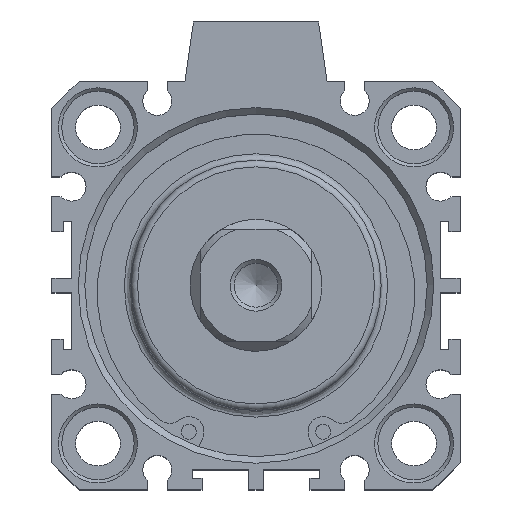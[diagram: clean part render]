
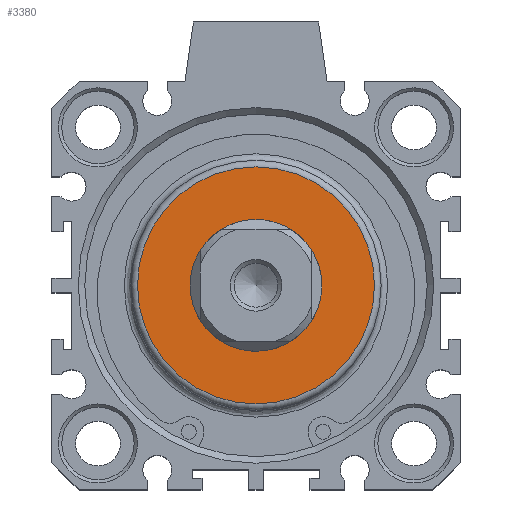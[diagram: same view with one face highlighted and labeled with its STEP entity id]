
A CAD part, top view. The second image highlights one B-rep face of the part: STEP entity #3380.
In plain terms, the highlighted planar face has unit normal (0, 0, 1).
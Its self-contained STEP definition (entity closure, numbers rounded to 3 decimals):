
#2900=CARTESIAN_POINT('',(-7.057,11.794,42.5));
#2901=VERTEX_POINT('',#2900);
#2902=CARTESIAN_POINT('',(-7.057,1.794,42.5));
#2903=DIRECTION('',(0.0,0.0,-1.0));
#2904=DIRECTION('',(0.0,1.0,0.0));
#2905=AXIS2_PLACEMENT_3D('',#2902,#2903,#2904);
#2906=CIRCLE('',#2905,10.0);
#2907=EDGE_CURVE('',#2901,#2901,#2906,.T.);
#3354=CARTESIAN_POINT('',(-7.057,19.794,42.5));
#3355=VERTEX_POINT('',#3354);
#3356=CARTESIAN_POINT('',(-7.057,1.794,42.5));
#3357=DIRECTION('',(0.0,0.0,-1.0));
#3358=DIRECTION('',(0.0,-1.0,0.0));
#3359=AXIS2_PLACEMENT_3D('',#3356,#3357,#3358);
#3360=CIRCLE('',#3359,18.);
#3361=EDGE_CURVE('',#3355,#3355,#3360,.T.);
#3369=CARTESIAN_POINT('',(-7.057,11.294,42.5));
#3370=DIRECTION('',(0.0,0.0,1.0));
#3371=DIRECTION('',(1.0,0.0,0.0));
#3372=AXIS2_PLACEMENT_3D('',#3369,#3370,#3371);
#3373=PLANE('',#3372);
#3374=ORIENTED_EDGE('',*,*,#3361,.F.);
#3375=EDGE_LOOP('',(#3374));
#3376=FACE_OUTER_BOUND('',#3375,.T.);
#3377=ORIENTED_EDGE('',*,*,#2907,.T.);
#3378=EDGE_LOOP('',(#3377));
#3379=FACE_BOUND('',#3378,.T.);
#3380=ADVANCED_FACE('',(#3376,#3379),#3373,.T.);
